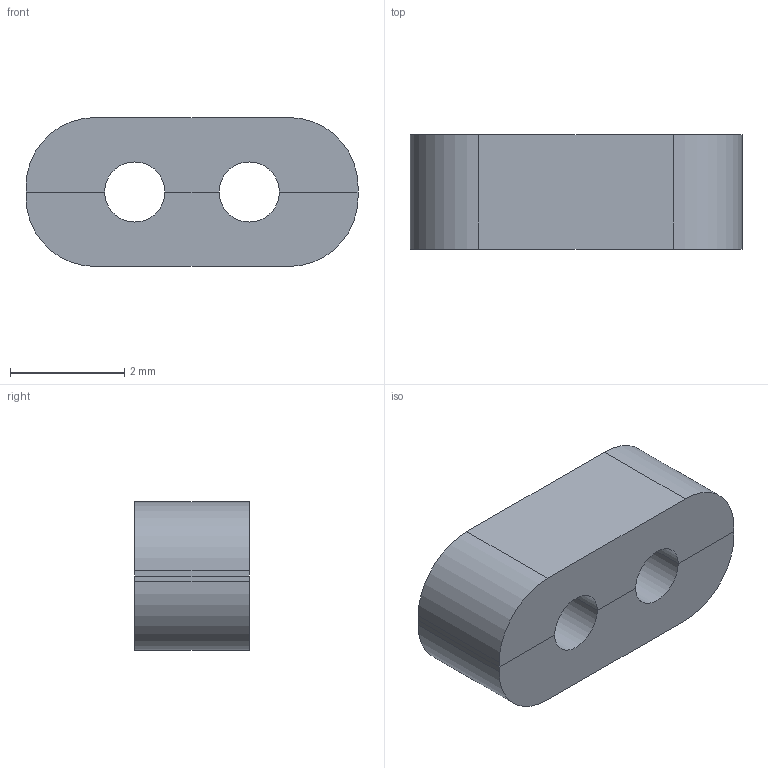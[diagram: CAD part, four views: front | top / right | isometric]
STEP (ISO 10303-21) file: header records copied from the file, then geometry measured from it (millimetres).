
FILE_DESCRIPTION(('Open CASCADE Model'),'2;1');
FILE_NAME('R36_STOCK_ADAPTER_SPLIT_SILICONE_GROMMET_INSTALLED', '2026-09-15T13:40:46',('Author'),('Open CASCADE'), 'Open CASCADE STEP processor 7.9','build123d','Unknown');
FILE_SCHEMA(('AUTOMOTIVE_DESIGN { 1 0 10303 214 1 1 1 1 }'));
Length unit declared in the file: millimetre
Products named in the file (1): R36_STOCK_ADAPTER_SPLIT_SILICONE_GROMMET_INSTALLED
Bounding box: 5.8 x 2 x 2.6 mm (x, y, z)
Volume: 24.2 mm3; surface area: 81.7 mm2
Topology: 2 solids, 2 shells, 26 faces, 66 edges, 44 vertices
Faces by surface type: plane 16, cylinder 10
Entity records: 1632 total; most frequent: CARTESIAN_POINT 365, DIRECTION 216, ORIENTED_EDGE 132, PCURVE 132, DEFINITIONAL_REPRESENTATION 132, LINE 110, VECTOR 110, EDGE_CURVE 66
